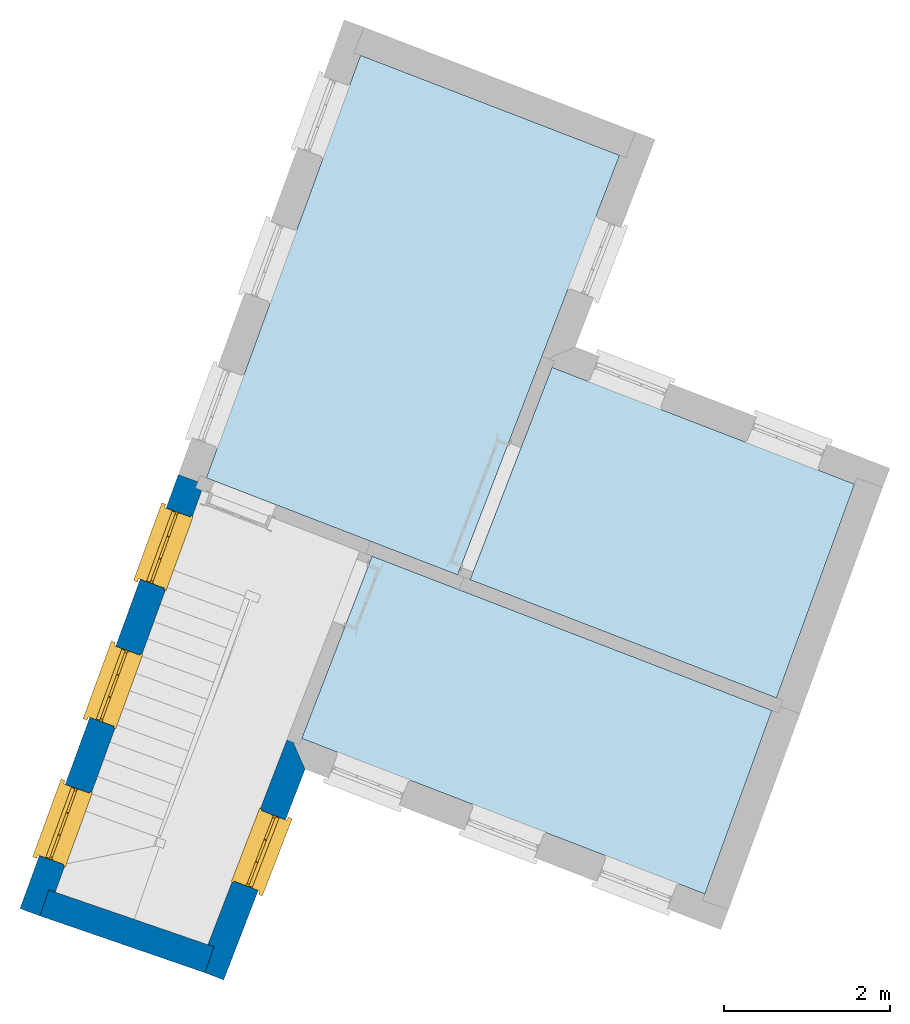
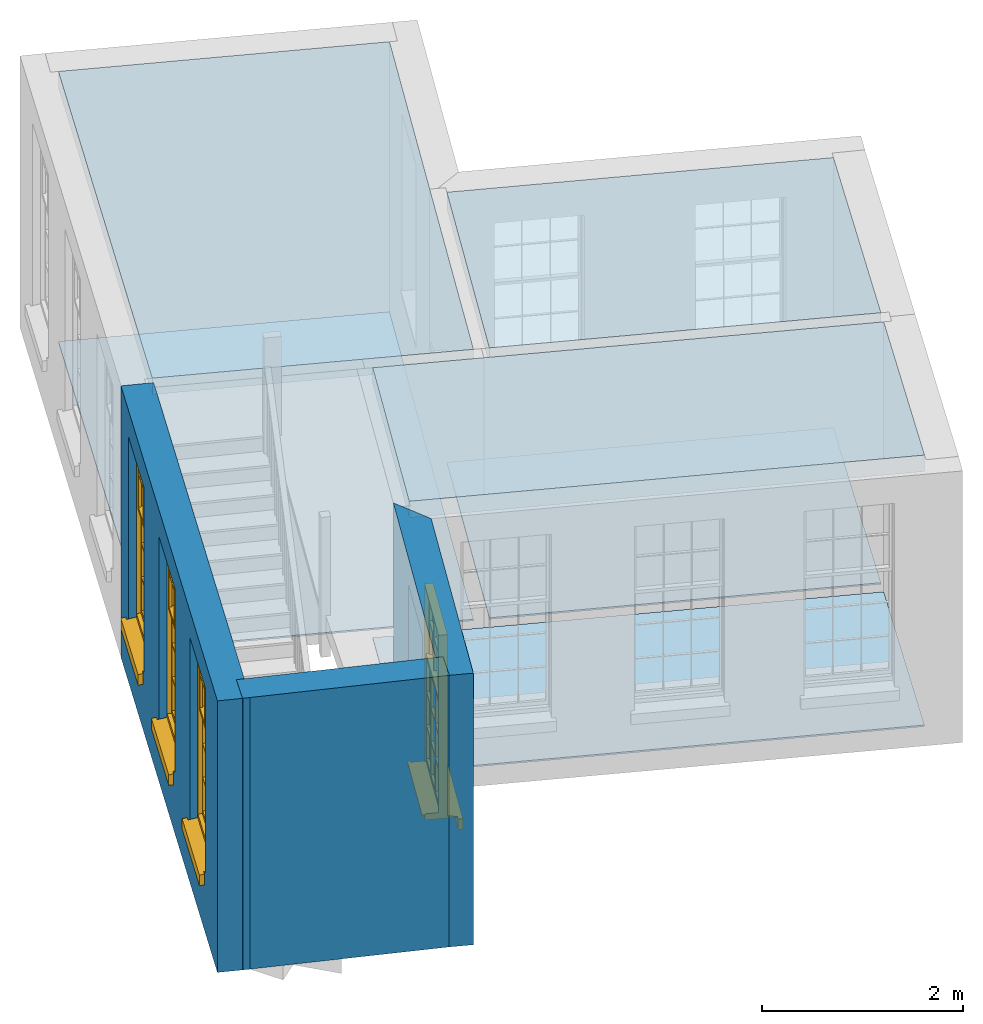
# One storey, part 1 of 4: 6 slabs, 4 windows, 3 walls, 4 openings.
"""IFC4 building model written with IfcOpenShell, lengths in metres."""

from ifc_helpers import new_model, si_unit, frame, origin, origin_with_axes, place, context, subcontext, project, spatial, polyline, outline, extrude, faceted_brep, source, transform, mapped, material, layer, layer_set, layer_usage, type_object, type_shapes, element, fill, save


model = new_model("IFC4")

# Units and contexts
model_context = context("Model", 3, world=origin_with_axes())
body_context = subcontext(model_context, "Body", "Model", "MODEL_VIEW")
ifc_project = project(units=[si_unit("PLANEANGLEUNIT", "RADIAN"), si_unit("MASSUNIT", "GRAM", prefix="KILO"), si_unit("FORCEUNIT", "NEWTON", prefix="KILO"), si_unit("LENGTHUNIT", "METRE"), si_unit("AREAUNIT", "SQUARE_METRE"), si_unit("VOLUMEUNIT", "CUBIC_METRE")], contexts=[model_context, model_context])

# Sites, building, storey
site_1_placement = place(None, origin_with_axes())
site_1 = spatial("IfcSite", under=ifc_project, at=site_1_placement, Name="Tamar")
site_2_placement = place(site_1_placement, origin_with_axes())
site_2 = spatial("IfcSite", under=site_1, at=site_2_placement, Name="Site plot-11", CompositionType="ELEMENT")
building_placement = place(None, origin_with_axes())
building = spatial("IfcBuilding", under=site_2, at=building_placement, Name="Building plot-11", CompositionType="ELEMENT")
storey_placement = place(None, frame((0.0, 0.0, 30.1), z_axis=(0.0, 0.0, 1.0), x_axis=(1.0, 0.0, 0.0)))
storey = spatial("IfcBuildingStorey", under=building, at=storey_placement, Name="plot-11 1", CompositionType="ELEMENT", Elevation=30.1)

# Slabs
slab_1_placement = place(storey_placement, frame((246.37947383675, 310.078982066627, 3.1)))
element("IfcSlab", 1, at=slab_1_placement, inside=storey, Name="My Slab", ObjectType="Slab", PredefinedType="FLOOR", context=body_context, shape_type="SweptSolid", body=[
    extrude(outline(polyline([(0.0, 0.0), (0.804593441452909, 2.20538337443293), (-3.99848914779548, 4.05916529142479), (-4.84363138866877, 1.86943199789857), (0.0, 0.0)])), origin_with_axes(), (0.0, 0.0, 1.0), 0.2),
])
slab_2_placement = place(storey_placement, frame((246.37947383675, 310.078982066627, 0.0)))
element("IfcSlab", 2, at=slab_2_placement, inside=storey, Name="My Slab", ObjectType="Slab", PredefinedType="FLOOR", context=body_context, shape_type="SweptSolid", body=[
    extrude(outline(polyline([(0.0, 0.0), (0.804593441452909, 2.20538337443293), (-3.99848914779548, 4.05916529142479), (-4.84363138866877, 1.86943199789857), (0.0, 0.0)])), origin_with_axes(), (0.0, 0.0, 1.0), 0.02),
])
slab_3_placement = place(storey_placement, frame((243.40878116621, 313.912965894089, 3.1)))
element("IfcSlab", 3, at=slab_3_placement, inside=storey, Name="My Slab", ObjectType="Slab", PredefinedType="FLOOR", context=body_context, shape_type="SweptSolid", body=[
    extrude(outline(polyline([(0.0, 0.0), (1.94543381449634, 5.0405493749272), (-1.16662107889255, 6.24166781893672), (-3.01871556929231, 1.16509350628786), (0.0, 0.0)])), origin_with_axes(), (0.0, 0.0, 1.0), 0.2),
])
slab_4_placement = place(storey_placement, frame((243.40878116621, 313.912965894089, 0.0)))
element("IfcSlab", 4, at=slab_4_placement, inside=storey, Name="My Slab", ObjectType="Slab", PredefinedType="FLOOR", context=body_context, shape_type="SweptSolid", body=[
    extrude(outline(polyline([(0.0, 0.0), (1.94543381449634, 5.0405493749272), (-1.16662107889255, 6.24166781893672), (-3.01871556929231, 1.16509350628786), (0.0, 0.0)])), origin_with_axes(), (0.0, 0.0, 1.0), 0.02),
])
slab_5_placement = place(storey_placement, frame((247.238914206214, 312.434700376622, 3.1)))
element("IfcSlab", 5, at=slab_5_placement, inside=storey, Name="My Slab", ObjectType="Slab", PredefinedType="FLOOR", context=body_context, shape_type="SweptSolid", body=[
    extrude(outline(polyline([(0.0, 0.0), (0.937092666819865, 2.56856255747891), (-2.69654594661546, 3.97098973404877), (-3.68086492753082, 1.42065448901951), (0.0, 0.0)])), origin_with_axes(), (0.0, 0.0, 1.0), 0.2),
])
slab_6_placement = place(storey_placement, frame((247.238914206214, 312.434700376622, 0.0)))
element("IfcSlab", 6, at=slab_6_placement, inside=storey, Name="My Slab", ObjectType="Slab", PredefinedType="FLOOR", context=body_context, shape_type="SweptSolid", body=[
    extrude(outline(polyline([(0.0, 0.0), (0.937092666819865, 2.56856255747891), (-2.69654594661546, 3.97098973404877), (-3.68086492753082, 1.42065448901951), (0.0, 0.0)])), origin_with_axes(), (0.0, 0.0, 1.0), 0.02),
])

# Wall, openings, windows
ifc_material_1 = material(Name="Masonry")
ifc_layer_1 = layer(ifc_material_1, 0.33, ventilated=False)
ifc_layer_set_1 = layer_set([ifc_layer_1], Name="exterior_0.08_0.25")
ifc_layer_usage_1 = layer_usage(ifc_layer_set_1, "AXIS2", "POSITIVE", -0.25)
wall_type_1 = type_object("IfcWallType", Name="exterior_0.08_0.25", PredefinedType="SOLIDWALL", material=ifc_layer_set_1)
wall_1_placement = place(storey_placement, frame((240.287995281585, 315.031702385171, 0.0), z_axis=(0.0, 0.0, 1.0), x_axis=(-0.342734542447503, -0.939432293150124, 0.0)))
wall_1 = element("IfcWall", 7, at=wall_1_placement, inside=storey, type_object=wall_type_1, material=ifc_layer_usage_1, Name="exterior", context=body_context, shape_type="SweptSolid", body=[
    extrude(outline(polyline([(1.08566080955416e-14, 0.0800000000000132), (-3.09331638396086e-15, -0.249999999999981), (5.54967232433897, -0.25000000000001), (5.54967232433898, 0.0800000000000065), (1.08566080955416e-14, 0.0800000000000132)])), origin_with_axes(), (0.0, 0.0, 1.0), 3.3),
])
opening_1_placement = place(wall_1_placement, frame((0.428278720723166, 0.0, 0.75)))
opening_1 = element("IfcOpeningElement", 8, at=opening_1_placement, cuts=wall_1, Name="My Opening", ObjectType="Opening", context=body_context, shape_type="SweptSolid", body=[
    extrude(outline(polyline([(0.0, -0.269999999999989), (0.909999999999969, -0.27000000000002), (0.90999999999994, 1.09999999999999), (-2.91433543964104e-14, 1.10000000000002), (0.0, -0.269999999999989)])), origin_with_axes(), (0.0, 0.0, 1.0), 2.23),
])
opening_2_placement = place(wall_1_placement, frame((2.1948361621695, 0.0, 0.75)))
opening_2 = element("IfcOpeningElement", 9, at=opening_2_placement, cuts=wall_1, Name="My Opening", ObjectType="Opening", context=body_context, shape_type="SweptSolid", body=[
    extrude(outline(polyline([(0.0, -0.270000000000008), (0.90999999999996, -0.270000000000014), (0.909999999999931, 1.1), (-2.88657986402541e-14, 1.1), (0.0, -0.270000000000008)])), origin_with_axes(), (0.0, 0.0, 1.0), 2.23),
])
opening_3_placement = place(wall_1_placement, frame((3.96139360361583, 0.0, 0.75)))
opening_3 = element("IfcOpeningElement", 10, at=opening_3_placement, cuts=wall_1, Name="My Opening", ObjectType="Opening", context=body_context, shape_type="SweptSolid", body=[
    extrude(outline(polyline([(0.0, -0.269999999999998), (0.909999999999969, -0.270000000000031), (0.90999999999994, 1.09999999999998), (-2.93098878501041e-14, 1.10000000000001), (0.0, -0.269999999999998)])), origin_with_axes(), (0.0, 0.0, 1.0), 2.23),
])
window_type = type_object("IfcWindowType", Name="sash_big_taller", PartitioningType="DOUBLE_PANEL_HORIZONTAL", PredefinedType="NOTDEFINED")
shared_shape = source(origin(), body_context, "Body", "Brep", [
    faceted_brep([(0.033125, 0.145, 1.385209), (0.01, 0.145, 1.385209), (0.033125, 0.145, 1.786042), (0.876875, 0.145, 1.385209), (0.876875, 0.145, 1.786042), (0.9, 0.145, 1.385209), (0.876875, 0.145, 1.796042), (0.876875, 0.145, 2.196875), (0.9, 0.145, 2.22), (0.033125, 0.145, 2.196875), (0.033125, 0.145, 1.796042), (0.01, 0.145, 2.22), (0.876875, 0.115, 1.786042), (0.876875, 0.115, 1.385209), (0.9, 0.115, 1.347084), (0.033125, 0.115, 2.196875), (0.01, 0.115, 2.22), (0.033125, 0.115, 1.796042), (0.01, 0.115, 1.347084), (0.033125, 0.115, 1.385209), (0.033125, 0.115, 1.786042), (0.876875, 0.115, 2.196875), (0.876875, 0.115, 1.796042), (0.9, 0.115, 2.22), (0.033125, 0.145, 1.347084), (0.01, 0.145, 1.347084), (0.033125, 0.145, 0.94625), (0.876875, 0.145, 1.347084), (0.876875, 0.145, 0.94625), (0.9, 0.145, 1.347084), (0.876875, 0.145, 0.52625), (0.876875, 0.145, 0.125417), (0.9, 0.145, 0.077167), (0.033125, 0.145, 0.125417), (0.033125, 0.145, 0.52625), (0.01, 0.145, 0.077167), (-0.0425, 0.0, 0.01), (-0.0425, -0.05, 0.001667), (0.0, 0.0, 0.01), (0.9525, 0.0, 0.01), (0.91, 0.0, 0.01), (0.9525, -0.05, 0.001667), (-0.02, 0.33, 0.077167), (0.0, 0.33, 0.077167), (-0.02, 0.36, 0.077167), (0.0, 0.19, 0.077167), (0.01, 0.19, 0.077167), (0.91, 0.19, 0.077167), (0.91, 0.33, 0.077167), (0.9, 0.19, 0.077167), (0.93, 0.33, 0.077167), (0.93, 0.36, 0.077167), (0.01, 0.175, 1.385209), (0.9, 0.175, 1.385209), (0.876875, 0.175, 0.125417), (0.876875, 0.175, 0.52625), (0.9, 0.175, 0.077167), (0.876875, 0.175, 0.94625), (0.876875, 0.175, 1.347084), (0.033125, 0.175, 0.125417), (0.01, 0.175, 0.077167), (0.033125, 0.175, 0.52625), (0.033125, 0.175, 1.347084), (0.033125, 0.175, 0.94625), (-0.02, 0.33, 0.052167), (-0.02, 0.36, 0.052167), (0.93, 0.36, 0.052167), (0.93, 0.33, 0.052167), (0.91, 0.33, 0.052167), (0.0, 0.33, 0.052167), (0.91, 0.1, 0.026667), (0.0, 0.1, 0.026667), (-0.0425, -0.05, -0.123333), (0.9525, -0.05, -0.123333), (-0.0425, 0.0, -0.123333), (0.9525, 0.0, -0.123333), (0.01, 0.19, 2.22), (0.9, 0.19, 2.22), (0.0, 0.19, 2.23), (0.91, 0.19, 2.23), (0.01, 0.1, 0.077167), (0.9, 0.1, 0.077167), (0.592292, 0.145, 0.125417), (0.592292, 0.175, 0.125417), (0.317708, 0.175, 0.125417), (0.317708, 0.145, 0.125417), (0.592292, 0.145, 0.53625), (0.317708, 0.145, 0.53625), (0.317708, 0.145, 0.52625), (0.592292, 0.145, 0.52625), (0.592292, 0.175, 0.53625), (0.317708, 0.175, 0.53625), (0.592292, 0.115, 1.796042), (0.592292, 0.145, 1.796042), (0.317708, 0.145, 1.796042), (0.317708, 0.115, 1.796042), (0.317708, 0.115, 1.786042), (0.592292, 0.115, 1.786042), (0.317708, 0.145, 1.786042), (0.592292, 0.145, 1.786042), (0.602292, 0.115, 1.786042), (0.592292, 0.115, 1.385209), (0.602292, 0.115, 1.385209), (0.602292, 0.145, 1.385209), (0.592292, 0.145, 1.385209), (0.602292, 0.145, 1.786042), (0.876875, 0.145, 0.53625), (0.876875, 0.175, 0.53625), (0.602292, 0.175, 0.53625), (0.602292, 0.145, 0.53625), (0.317708, 0.175, 0.52625), (0.307708, 0.175, 0.125417), (0.307708, 0.175, 0.52625), (0.602292, 0.175, 0.52625), (0.602292, 0.175, 0.125417), (0.592292, 0.175, 0.52625), (0.307708, 0.175, 0.53625), (0.033125, 0.175, 0.53625), (0.317708, 0.175, 1.347084), (0.317708, 0.175, 0.94625), (0.307708, 0.175, 0.94625), (0.307708, 0.175, 1.347084), (0.602292, 0.175, 1.347084), (0.602292, 0.175, 0.94625), (0.592292, 0.175, 0.94625), (0.592292, 0.175, 1.347084), (0.307708, 0.145, 0.52625), (0.307708, 0.145, 0.125417), (0.307708, 0.145, 0.53625), (0.033125, 0.145, 0.53625), (0.307708, 0.145, 1.347084), (0.307708, 0.145, 0.94625), (0.592292, 0.145, 1.347084), (0.592292, 0.145, 0.94625), (0.317708, 0.145, 0.94625), (0.317708, 0.145, 1.347084), (0.602292, 0.145, 0.94625), (0.602292, 0.145, 1.347084), (0.602292, 0.145, 0.52625), (0.602292, 0.145, 0.125417), (0.307708, 0.115, 1.796042), (0.307708, 0.115, 1.786042), (0.307708, 0.115, 1.385209), (0.317708, 0.115, 1.385209), (0.317708, 0.115, 2.196875), (0.307708, 0.115, 2.196875), (0.602292, 0.115, 2.196875), (0.592292, 0.115, 2.196875), (0.602292, 0.115, 1.796042), (0.602292, 0.145, 1.796042), (0.307708, 0.145, 1.796042), (0.307708, 0.145, 2.196875), (0.317708, 0.145, 2.196875), (0.592292, 0.145, 2.196875), (0.602292, 0.145, 2.196875), (0.307708, 0.145, 1.786042), (0.317708, 0.145, 1.385209), (0.307708, 0.145, 1.385209), (0.876875, 0.175, 0.93625), (0.033125, 0.175, 0.93625), (0.033125, 0.145, 0.93625), (0.876875, 0.145, 0.93625), (0.91, 0.1, 2.23), (0.9, 0.1, 2.22), (0.01, 0.1, 2.22), (0.0, 0.1, 2.23), (0.91, 0.0, 0.0), (0.0, 0.0, 0.0), (0.91, 0.33, 0.0), (0.0, 0.33, 0.0), (0.317708, 0.145, 0.93625), (0.592292, 0.145, 0.93625), (0.317708, 0.175, 0.93625), (0.307708, 0.175, 0.93625), (0.602292, 0.175, 0.93625), (0.592292, 0.175, 0.93625), (0.307708, 0.145, 0.93625), (0.602292, 0.145, 0.93625)], [[[0, 1, 2]], [[3, 4, 5]], [[6, 7, 8]], [[9, 10, 11]], [[12, 13, 14]], [[15, 16, 17]], [[18, 19, 20]], [[21, 22, 23]], [[24, 25, 26]], [[27, 28, 29]], [[30, 31, 32]], [[33, 34, 35]], [[14, 27, 29]], [[25, 24, 18]], [[36, 37, 38]], [[39, 40, 41]], [[42, 43, 44]], [[45, 46, 43]], [[47, 48, 49]], [[50, 51, 48]], [[1, 0, 52]], [[5, 53, 3]], [[54, 55, 56]], [[57, 58, 53]], [[59, 60, 61]], [[62, 63, 52]], [[48, 43, 46, 49]], [[51, 44, 43, 48]], [[64, 42, 44, 65]], [[65, 44, 51, 66]], [[66, 51, 50, 67]], [[65, 66, 68, 69]], [[60, 56, 49, 46]], [[70, 71, 38, 40]], [[37, 41, 40, 38]], [[37, 72, 73, 41]], [[74, 75, 73, 72]], [[8, 11, 76, 77]], [[76, 78, 79, 77]], [[32, 35, 80, 81]], [[81, 80, 71, 70]], [[82, 83, 84, 85]], [[86, 87, 88, 89]], [[86, 90, 91, 87]], [[92, 93, 94, 95]], [[92, 95, 96, 97]], [[96, 98, 99, 97]], [[100, 97, 101, 102]], [[103, 104, 99, 105]], [[97, 99, 104, 101]], [[102, 103, 105, 100]], [[106, 107, 108, 109]], [[110, 84, 111, 112]], [[113, 114, 83, 115]], [[116, 112, 61, 117]], [[90, 115, 110, 91]], [[118, 119, 120, 121]], [[122, 123, 124, 125]], [[113, 108, 107, 55]], [[126, 112, 111, 127]], [[34, 61, 112, 126]], [[89, 115, 83, 82]], [[88, 110, 115, 89]], [[85, 84, 110, 88]], [[128, 116, 117, 129]], [[130, 121, 120, 131]], [[132, 125, 124, 133]], [[134, 119, 118, 135]], [[136, 123, 122, 137]], [[138, 113, 55, 30]], [[139, 114, 113, 138]], [[138, 30, 106, 109]], [[88, 126, 127, 85]], [[138, 89, 82, 139]], [[137, 132, 133, 136]], [[128, 129, 34, 126]], [[135, 130, 131, 134]], [[140, 17, 20, 141]], [[96, 141, 142, 143]], [[144, 145, 140, 95]], [[146, 147, 92, 148]], [[100, 12, 22, 148]], [[149, 6, 4, 105]], [[94, 150, 151, 152]], [[149, 93, 153, 154]], [[99, 98, 94, 93]], [[155, 2, 10, 150]], [[156, 157, 155, 98]], [[141, 155, 157, 142]], [[20, 2, 155, 141]], [[143, 156, 98, 96]], [[140, 150, 10, 17]], [[145, 151, 150, 140]], [[147, 153, 93, 92]], [[95, 94, 152, 144]], [[22, 6, 149, 148]], [[148, 149, 154, 146]], [[100, 105, 4, 12]], [[109, 86, 89, 138]], [[108, 113, 115, 90]], [[91, 110, 112, 116]], [[87, 128, 126, 88]], [[97, 100, 148, 92]], [[141, 96, 95, 140]], [[98, 155, 150, 94]], [[105, 99, 93, 149]], [[143, 101, 104, 156]], [[135, 118, 125, 132]], [[144, 152, 153, 147]], [[127, 111, 59, 33]], [[15, 9, 151, 145]], [[146, 154, 7, 21]], [[31, 54, 114, 139]], [[36, 74, 72, 37]], [[39, 41, 73, 75]], [[18, 14, 101, 143]], [[23, 16, 144, 147]], [[83, 56, 60, 84]], [[52, 53, 125, 118]], [[53, 52, 156, 104]], [[11, 8, 153, 152]], [[14, 18, 135, 132]], [[2, 1, 11, 10]], [[8, 5, 4, 6]], [[57, 53, 56, 158]], [[60, 52, 63, 159]], [[26, 25, 35, 160]], [[32, 29, 28, 161]], [[14, 23, 22, 12]], [[18, 20, 17, 16]], [[19, 0, 2, 20]], [[17, 10, 9, 15]], [[12, 4, 3, 13]], [[21, 7, 6, 22]], [[27, 58, 57, 28]], [[30, 55, 54, 31]], [[33, 59, 61, 34]], [[26, 63, 62, 24]], [[5, 8, 77, 53]], [[76, 11, 1, 52]], [[46, 45, 78, 76]], [[49, 77, 79, 47]], [[70, 162, 163, 81]], [[71, 80, 164, 165]], [[19, 142, 157, 0]], [[102, 13, 3, 103]], [[121, 130, 24, 62]], [[29, 32, 81, 14]], [[80, 35, 25, 18]], [[60, 46, 76, 52]], [[77, 49, 56, 53]], [[23, 14, 81, 163]], [[16, 164, 80, 18]], [[35, 85, 127]], [[127, 33, 35]], [[139, 82, 32]], [[32, 31, 139]], [[32, 82, 85, 35]], [[102, 101, 14]], [[14, 13, 102]], [[18, 143, 142]], [[142, 19, 18]], [[146, 21, 23]], [[23, 147, 146]], [[16, 15, 145]], [[145, 144, 16]], [[11, 152, 151]], [[151, 9, 11]], [[154, 153, 8]], [[8, 7, 154]], [[23, 163, 164, 16]], [[162, 165, 164, 163]], [[52, 118, 121]], [[121, 62, 52]], [[125, 53, 122]], [[58, 122, 53]], [[27, 137, 122, 58]], [[56, 83, 114]], [[114, 54, 56]], [[111, 84, 60]], [[60, 59, 111]], [[137, 27, 14]], [[14, 132, 137]], [[130, 135, 18]], [[18, 24, 130]], [[157, 156, 52]], [[52, 0, 157]], [[103, 3, 53]], [[53, 104, 103]], [[79, 78, 165, 162]], [[78, 45, 71, 165]], [[162, 70, 47, 79]], [[166, 75, 74, 167]], [[68, 66, 67]], [[48, 68, 67, 50]], [[69, 64, 65]], [[42, 64, 69, 43]], [[69, 68, 168, 169]], [[70, 68, 48, 47]], [[166, 168, 68, 70]], [[43, 69, 71, 45]], [[69, 169, 167, 71]], [[168, 166, 167, 169]], [[38, 167, 74, 36]], [[71, 167, 38]], [[39, 75, 166, 40]], [[40, 166, 70]], [[133, 134, 170, 171]], [[133, 124, 119, 134]], [[28, 57, 123, 136]], [[172, 91, 116, 173]], [[174, 108, 90, 175]], [[120, 173, 159, 63]], [[124, 175, 172, 119]], [[174, 123, 57, 158]], [[176, 173, 116, 128]], [[160, 159, 173, 176]], [[171, 175, 90, 86]], [[170, 172, 175, 171]], [[87, 91, 172, 170]], [[131, 120, 63, 26]], [[177, 174, 158, 161]], [[109, 108, 174, 177]], [[177, 161, 28, 136]], [[170, 176, 128, 87]], [[177, 171, 86, 109]], [[131, 26, 160, 176]], [[136, 133, 171, 177]], [[123, 174, 175, 124]], [[119, 172, 173, 120]], [[134, 131, 176, 170]], [[129, 117, 159, 160]], [[161, 158, 107, 106]], [[35, 34, 129]], [[35, 129, 160]], [[32, 106, 30]], [[32, 161, 106]], [[56, 55, 107]], [[56, 107, 158]], [[60, 117, 61]], [[60, 159, 117]]]),
])
type_shapes(window_type, [shared_shape])
window_1_placement = place(storey_placement, frame((239.887562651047, 314.721901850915, 0.75), z_axis=(0.0, 0.0, 1.0), x_axis=(-0.311888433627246, -0.854883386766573, 0.0)))
window_1 = element("IfcWindow", 11, at=window_1_placement, inside=storey, type_object=window_type, Name="circulation outside window", OverallHeight=2.23, OverallWidth=0.91, context=body_context, shape_type="MappedRepresentation", body=[
    mapped(shared_shape, transform((0.0, 0.0, 0.0), scale=1.0)),
])
fill(opening_1, window_1)
window_2_placement = place(storey_placement, frame((239.282102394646, 313.062340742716, 0.75), z_axis=(0.0, 0.0, 1.0), x_axis=(-0.311888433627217, -0.854883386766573, 0.0)))
window_2 = element("IfcWindow", 12, at=window_2_placement, inside=storey, type_object=window_type, Name="circulation outside window", OverallHeight=2.23, OverallWidth=0.91, context=body_context, shape_type="MappedRepresentation", body=[
    mapped(shared_shape, transform((0.0, 0.0, 0.0), scale=1.0)),
])
fill(opening_2, window_2)
window_3_placement = place(storey_placement, frame((238.676642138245, 311.402779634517, 0.75), z_axis=(0.0, 0.0, 1.0), x_axis=(-0.311888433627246, -0.854883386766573, 0.0)))
window_3 = element("IfcWindow", 13, at=window_3_placement, inside=storey, type_object=window_type, Name="circulation outside window", OverallHeight=2.23, OverallWidth=0.91, context=body_context, shape_type="MappedRepresentation", body=[
    mapped(shared_shape, transform((0.0, 0.0, 0.0), scale=1.0)),
])
fill(opening_3, window_3)

# Wall, opening, window
wall_2_placement = place(storey_placement, frame((240.454728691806, 309.369466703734, 0.0), z_axis=(0.0, 0.0, 1.0), x_axis=(0.360068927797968, 0.932925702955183, 0.0)))
wall_2 = element("IfcWall", 14, at=wall_2_placement, inside=storey, type_object=wall_type_1, material=ifc_layer_usage_1, Name="exterior", context=body_context, shape_type="SweptSolid", body=[
    extrude(outline(polyline([(-0.249999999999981, 0.0800000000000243), (-0.249999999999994, -0.249999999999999), (2.46524175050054, -0.249999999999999), (2.79524175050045, 0.0800000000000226), (-0.249999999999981, 0.0800000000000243)])), origin_with_axes(), (0.0, 0.0, 1.0), 3.3),
])
opening_4_placement = place(wall_2_placement, frame((0.902620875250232, 0.0, 0.75)))
opening_4 = element("IfcOpeningElement", 15, at=opening_4_placement, cuts=wall_2, Name="My Opening", ObjectType="Opening", context=body_context, shape_type="SweptSolid", body=[
    extrude(outline(polyline([(0.0, -0.270000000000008), (0.910000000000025, -0.270000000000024), (0.910000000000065, 1.09999999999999), (4.00790511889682e-14, 1.1), (0.0, -0.270000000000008)])), origin_with_axes(), (0.0, 0.0, 1.0), 2.23),
])
window_4_placement = place(storey_placement, frame((241.031624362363, 310.114326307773, 0.75), z_axis=(0.0, 0.0, 1.0), x_axis=(0.327662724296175, 0.848962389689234, 0.0)))
window_4 = element("IfcWindow", 16, at=window_4_placement, inside=storey, type_object=window_type, Name="circulation outside window", OverallHeight=2.23, OverallWidth=0.91, context=body_context, shape_type="MappedRepresentation", body=[
    mapped(shared_shape, transform((0.0, 0.0, 0.0), scale=1.0)),
])
fill(opening_4, window_4)

# Wall
ifc_material_2 = material(Name="Masonry")
ifc_layer_2 = layer(ifc_material_2, 0.33, ventilated=False)
ifc_layer_set_2 = layer_set([ifc_layer_2], Name="party_0.08_0.25")
ifc_layer_usage_2 = layer_usage(ifc_layer_set_2, "AXIS2", "POSITIVE", -0.25)
wall_type_2 = type_object("IfcWallType", Name="party_0.08_0.25", PredefinedType="SOLIDWALL", material=ifc_layer_set_2)
wall_3_placement = place(storey_placement, frame((238.471614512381, 310.053019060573, 0.0), z_axis=(0.0, 0.0, 1.0), x_axis=(0.945414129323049, -0.325871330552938, 0.0)))
element("IfcWall", 17, at=wall_3_placement, inside=storey, type_object=wall_type_2, material=ifc_layer_usage_2, Name="party", context=body_context, shape_type="SweptSolid", body=[
    extrude(outline(polyline([(4.65895350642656e-15, 0.0800000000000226), (1.5053108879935e-14, -0.250000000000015), (2.097614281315, -0.250000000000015), (2.09761428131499, 0.0800000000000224), (4.65895350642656e-15, 0.0800000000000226)])), origin_with_axes(), (0.0, 0.0, 1.0), 3.3),
])

save(model, "model.ifc")
